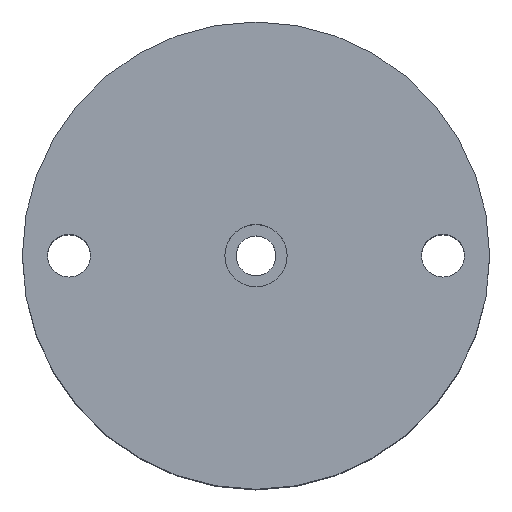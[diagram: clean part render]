
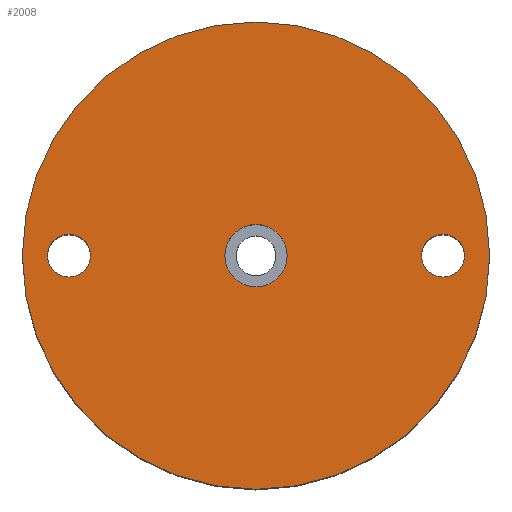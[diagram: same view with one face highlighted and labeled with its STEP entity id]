
A CAD part, top view. The second image highlights one B-rep face of the part: STEP entity #2008.
In plain terms, the highlighted planar face has unit normal (0, 0, 1).
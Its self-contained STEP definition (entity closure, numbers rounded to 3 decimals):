
#1795=CARTESIAN_POINT('Vertex',(42.5,0.,0.)) ;
#1798=CARTESIAN_POINT('Axis2P3D Location',(48.,0.,0.)) ;
#1802=CARTESIAN_POINT('Vertex',(53.5,0.,0.)) ;
#1933=CARTESIAN_POINT('Axis2P3D Location',(48.,0.,0.)) ;
#1945=CARTESIAN_POINT('Axis2P3D Location',(0.,0.,0.)) ;
#1950=CARTESIAN_POINT('Axis2P3D Location',(0.,0.,0.)) ;
#1954=CARTESIAN_POINT('Vertex',(60.,0.,0.)) ;
#1956=CARTESIAN_POINT('Vertex',(-60.,0.,0.)) ;
#1959=CARTESIAN_POINT('Axis2P3D Location',(0.,0.,0.)) ;
#1972=CARTESIAN_POINT('Axis2P3D Location',(-48.,0.,0.)) ;
#1976=CARTESIAN_POINT('Vertex',(-42.5,0.,0.)) ;
#1978=CARTESIAN_POINT('Vertex',(-53.5,0.,0.)) ;
#1981=CARTESIAN_POINT('Axis2P3D Location',(-48.,0.,0.)) ;
#1990=CARTESIAN_POINT('Axis2P3D Location',(0.,0.,0.)) ;
#1994=CARTESIAN_POINT('Vertex',(8.,0.,0.)) ;
#1996=CARTESIAN_POINT('Vertex',(-8.,0.,0.)) ;
#1999=CARTESIAN_POINT('Axis2P3D Location',(0.,0.,0.)) ;
#1799=DIRECTION('Axis2P3D Direction',(0.,-0.,1.)) ;
#1934=DIRECTION('Axis2P3D Direction',(0.,-0.,1.)) ;
#1946=DIRECTION('Axis2P3D Direction',(0.,0.,1.)) ;
#1947=DIRECTION('Axis2P3D XDirection',(1.,0.,-0.)) ;
#1951=DIRECTION('Axis2P3D Direction',(0.,0.,1.)) ;
#1960=DIRECTION('Axis2P3D Direction',(0.,0.,1.)) ;
#1973=DIRECTION('Axis2P3D Direction',(0.,0.,1.)) ;
#1982=DIRECTION('Axis2P3D Direction',(0.,0.,1.)) ;
#1991=DIRECTION('Axis2P3D Direction',(0.,0.,1.)) ;
#2000=DIRECTION('Axis2P3D Direction',(0.,0.,1.)) ;
#1800=AXIS2_PLACEMENT_3D('Circle Axis2P3D',#1798,#1799,$) ;
#1935=AXIS2_PLACEMENT_3D('Circle Axis2P3D',#1933,#1934,$) ;
#1948=AXIS2_PLACEMENT_3D('Plane Axis2P3D',#1945,#1946,#1947) ;
#1952=AXIS2_PLACEMENT_3D('Circle Axis2P3D',#1950,#1951,$) ;
#1961=AXIS2_PLACEMENT_3D('Circle Axis2P3D',#1959,#1960,$) ;
#1974=AXIS2_PLACEMENT_3D('Circle Axis2P3D',#1972,#1973,$) ;
#1983=AXIS2_PLACEMENT_3D('Circle Axis2P3D',#1981,#1982,$) ;
#1992=AXIS2_PLACEMENT_3D('Circle Axis2P3D',#1990,#1991,$) ;
#2001=AXIS2_PLACEMENT_3D('Circle Axis2P3D',#1999,#2000,$) ;
#1965=ORIENTED_EDGE('',*,*,#1958,.T.) ;
#1966=ORIENTED_EDGE('',*,*,#1963,.T.) ;
#1969=ORIENTED_EDGE('',*,*,#1937,.F.) ;
#1970=ORIENTED_EDGE('',*,*,#1804,.F.) ;
#1987=ORIENTED_EDGE('',*,*,#1980,.F.) ;
#1988=ORIENTED_EDGE('',*,*,#1985,.F.) ;
#2005=ORIENTED_EDGE('',*,*,#1998,.F.) ;
#2006=ORIENTED_EDGE('',*,*,#2003,.F.) ;
#1971=FACE_BOUND('',#1968,.T.) ;
#1989=FACE_BOUND('',#1986,.T.) ;
#2007=FACE_BOUND('',#2004,.T.) ;
#2008=ADVANCED_FACE('Foro \X2\00D8\X0\11.0 (11)-1',(#1967,#1971,#1989,#2007),#1949,.T.) ;
#1801=CIRCLE('generated circle',#1800,5.5) ;
#1936=CIRCLE('generated circle',#1935,5.5) ;
#1953=CIRCLE('generated circle',#1952,60.) ;
#1962=CIRCLE('generated circle',#1961,60.) ;
#1975=CIRCLE('generated circle',#1974,5.5) ;
#1984=CIRCLE('generated circle',#1983,5.5) ;
#1993=CIRCLE('generated circle',#1992,8.) ;
#2002=CIRCLE('generated circle',#2001,8.) ;
#1804=EDGE_CURVE('',#1796,#1803,#1801,.T.) ;
#1937=EDGE_CURVE('',#1803,#1796,#1936,.T.) ;
#1958=EDGE_CURVE('',#1955,#1957,#1953,.T.) ;
#1963=EDGE_CURVE('',#1957,#1955,#1962,.T.) ;
#1980=EDGE_CURVE('',#1977,#1979,#1975,.T.) ;
#1985=EDGE_CURVE('',#1979,#1977,#1984,.T.) ;
#1998=EDGE_CURVE('',#1995,#1997,#1993,.T.) ;
#2003=EDGE_CURVE('',#1997,#1995,#2002,.T.) ;
#1964=EDGE_LOOP('',(#1965,#1966)) ;
#1968=EDGE_LOOP('',(#1969,#1970)) ;
#1986=EDGE_LOOP('',(#1987,#1988)) ;
#2004=EDGE_LOOP('',(#2005,#2006)) ;
#1967=FACE_OUTER_BOUND('',#1964,.T.) ;
#1949=PLANE('Plane',#1948) ;
#1796=VERTEX_POINT('',#1795) ;
#1803=VERTEX_POINT('',#1802) ;
#1955=VERTEX_POINT('',#1954) ;
#1957=VERTEX_POINT('',#1956) ;
#1977=VERTEX_POINT('',#1976) ;
#1979=VERTEX_POINT('',#1978) ;
#1995=VERTEX_POINT('',#1994) ;
#1997=VERTEX_POINT('',#1996) ;
